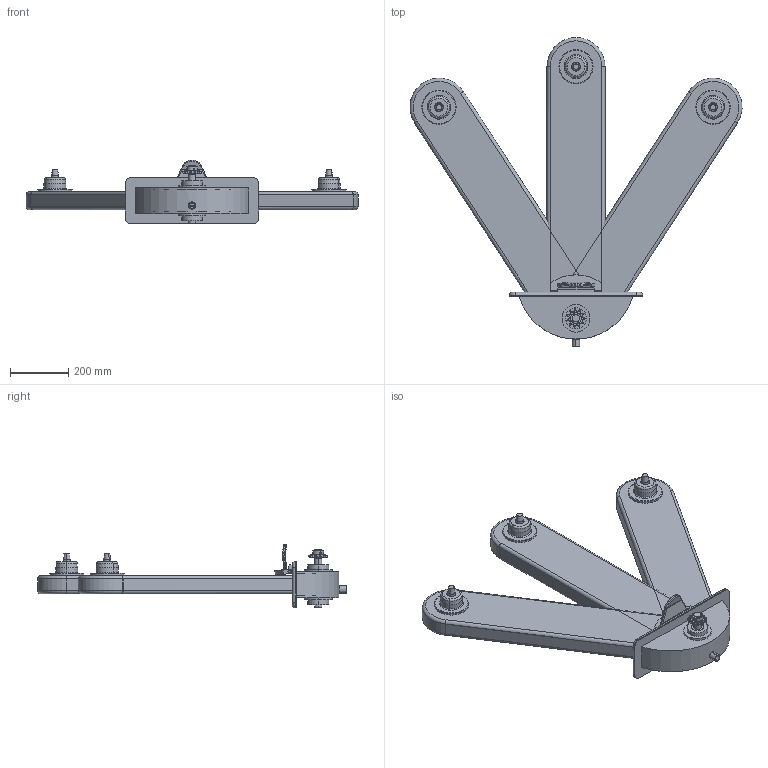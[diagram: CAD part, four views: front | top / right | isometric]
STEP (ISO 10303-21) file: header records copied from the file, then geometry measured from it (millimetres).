
FILE_DESCRIPTION (( 'STEP AP214' ), '1' );
FILE_NAME ('WP900 Pendular pedestal.STEP', '2014-06-24T12:11:47', ( '' ), ( '' ), 'SwSTEP 2.0', 'SolidWorks 2014', '' );
FILE_SCHEMA (( 'AUTOMOTIVE_DESIGN' ));
Length unit declared in the file: millimetre
Products named in the file (8): Z4-175 Sprocket hub 11th stainless with 25mm hole for 5-8'''' chain_Chain wheel ISO - 11Z 10A-1 --11SB37H30L25.0R1; european type roller chain wheel_s_din_Chain wheel DIN 8192 - A 11Z 10B-1 --11SA25.0N; european type roller chain wheel_s_din_Chain wheel DIN 8192 - A 11Z 10B-1 --11SA25.0NAISI304; european type roller chain wheel_s_din_Chain wheel DIN 8192 - A 11Z 10B-1 --11SA20.0N; WP900 pedestal; WP900 Pedal; WP900 housing cockpitfloor; WP900 Pendular pedestal
Assembly tree (9 placements, depth 2):
  WP900 Pendular pedestal
    WP900 housing cockpitfloor
    WP900 Pedal
    WP900 pedestal  x3
    european type roller chain wheel_s_din_Chain wheel DIN 8192 - A 11Z 10B-1 --11SA20.0N
    european type roller chain wheel_s_din_Chain wheel DIN 8192 - A 11Z 10B-1 --11SA25.0NAISI304
    european type roller chain wheel_s_din_Chain wheel DIN 8192 - A 11Z 10B-1 --11SA25.0N
    Z4-175 Sprocket hub 11th stainless with 25mm hole for 5-8'''' chain_Chain wheel ISO - 11Z 10A-1 --11SB37H30L25.0R1
Bounding box: 1144.13 x 1063.93 x 220.52 mm (x, y, z)
Volume: 8031125 mm3; surface area: 3491825.3 mm2
Topology: 10 solids, 10 shells, 784 faces, 1937 edges, 1230 vertices
Faces by surface type: cylinder 431, torus 152, plane 137, cone 36, bspline 28
Entity records: 20482 total; most frequent: CARTESIAN_POINT 6243, ORIENTED_EDGE 3010, DIRECTION 2823, EDGE_CURVE 1505, AXIS2_PLACEMENT_3D 1178, VERTEX_POINT 974, EDGE_LOOP 645, CIRCLE 606
